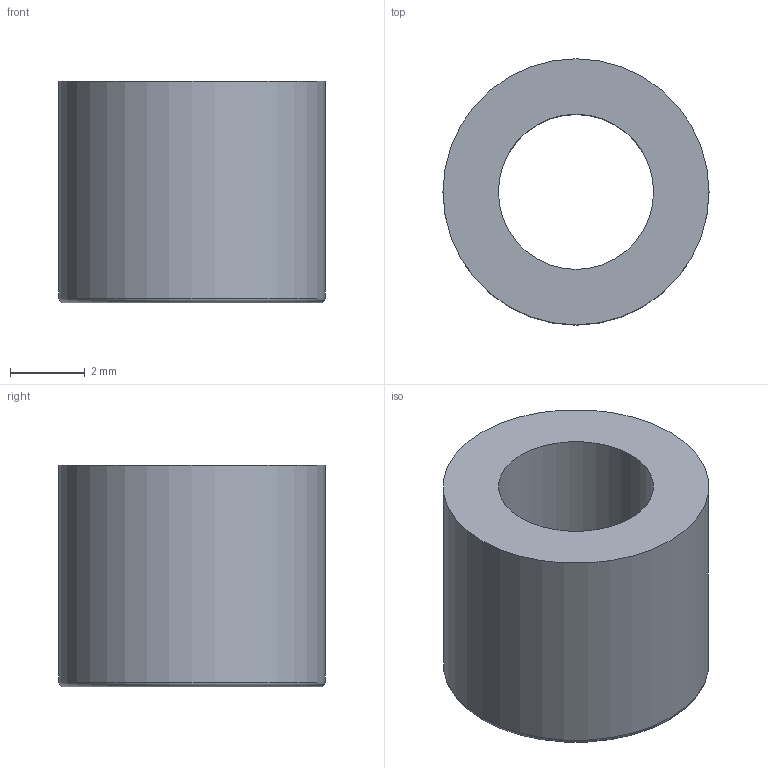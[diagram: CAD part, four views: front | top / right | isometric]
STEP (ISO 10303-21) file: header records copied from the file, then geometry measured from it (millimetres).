
FILE_DESCRIPTION(/* description */ (''),/* implementation_level */ '2;1');
FILE_NAME(/* name */ 'D:\~~GatCad\Ivan''s Printable Fire Control Group (AR15, FGC-9, etc)\STEP\Hammer Stud.stp',/* time_stamp */ '2020-12-30T12:27:07-06:00',/* author */ ('johne'),/* organization */ (''),/* preprocessor_version */ 'ST-DEVELOPER v18',/* originating_system */ 'Autodesk Inventor 2020',/* authorisation */ '');
FILE_SCHEMA (('AUTOMOTIVE_DESIGN { 1 0 10303 214 3 1 1 }'));
Length unit declared in the file: millimetre
Products named in the file (1): Hammer Stud
Bounding box: 7.11 x 7.11 x 5.92 mm (x, y, z)
Volume: 155.1 mm3; surface area: 260.7 mm2
Topology: 1 solids, 1 shells, 6 faces, 13 edges, 9 vertices
Faces by surface type: cylinder 2, torus 2, plane 2
Full cylindrical faces by diameter (mm): 4.15 x1, 7.112 x1
Entity records: 230 total; most frequent: DIRECTION 38, CARTESIAN_POINT 29, ORIENTED_EDGE 26, AXIS2_PLACEMENT_3D 18, EDGE_CURVE 13, CIRCLE 11, VERTEX_POINT 9, EDGE_LOOP 8
